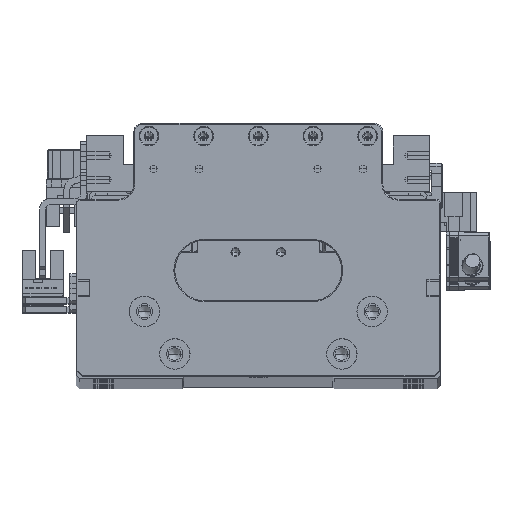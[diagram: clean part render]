
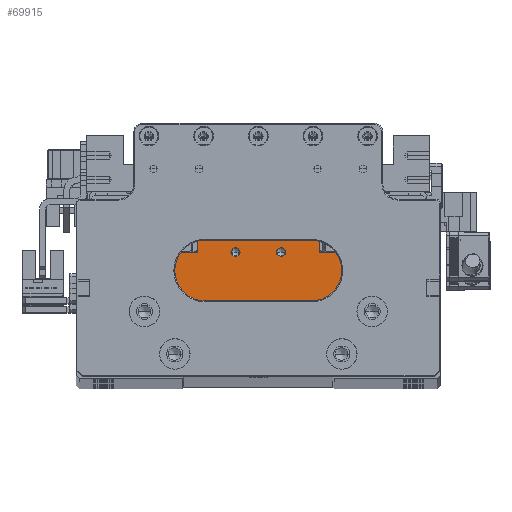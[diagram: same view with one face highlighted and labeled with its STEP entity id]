
A CAD part, top view. The second image highlights one B-rep face of the part: STEP entity #69915.
In plain terms, the highlighted planar face has unit normal (0, 0, 1).
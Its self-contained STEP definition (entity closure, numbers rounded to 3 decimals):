
#702 = CARTESIAN_POINT ( 'NONE',  ( -90.125, 79.08, 462.722 ) ) ;
#2528 = LINE ( 'NONE', #114167, #82117 ) ;
#2629 = EDGE_CURVE ( 'NONE', #89638, #82206, #87624, .T. ) ;
#3919 = ORIENTED_EDGE ( 'NONE', *, *, #103063, .T. ) ;
#5893 = EDGE_CURVE ( 'NONE', #25968, #48099, #117384, .T. ) ;
#6108 = VERTEX_POINT ( 'NONE', #47913 ) ;
#7259 = DIRECTION ( 'NONE',  ( 0., 0., 1. ) ) ;
#11536 = DIRECTION ( 'NONE',  ( 1., 0., 0. ) ) ;
#11896 = CARTESIAN_POINT ( 'NONE',  ( -90.125, 59.78, 462.722 ) ) ;
#11943 = DIRECTION ( 'NONE',  ( 0., 0., 1. ) ) ;
#16099 = ORIENTED_EDGE ( 'NONE', *, *, #67225, .F. ) ;
#17135 = VERTEX_POINT ( 'NONE', #18384 ) ;
#17901 = CARTESIAN_POINT ( 'NONE',  ( -112.525, 71.48, 462.722 ) ) ;
#18384 = CARTESIAN_POINT ( 'NONE',  ( -102.625, 82.98, 462.722 ) ) ;
#22788 = DIRECTION ( 'NONE',  ( 1., 0., 0. ) ) ;
#24142 = AXIS2_PLACEMENT_3D ( 'NONE', #702, #76399, #11536 ) ;
#24941 = LINE ( 'NONE', #25284, #50350 ) ;
#25284 = CARTESIAN_POINT ( 'NONE',  ( -90.125, 78.98, 462.722 ) ) ;
#25968 = VERTEX_POINT ( 'NONE', #132544 ) ;
#27714 = FACE_OUTER_BOUND ( 'NONE', #120746, .T. ) ;
#27730 = ORIENTED_EDGE ( 'NONE', *, *, #139085, .F. ) ;
#30384 = EDGE_CURVE ( 'NONE', #6108, #17135, #2528, .T. ) ;
#30758 = CARTESIAN_POINT ( 'NONE',  ( -90.125, 71.48, 462.722 ) ) ;
#31223 = DIRECTION ( 'NONE',  ( -1., 0., 0. ) ) ;
#31745 = DIRECTION ( 'NONE',  ( 0., 0., 1. ) ) ;
#33281 = ORIENTED_EDGE ( 'NONE', *, *, #125050, .F. ) ;
#37457 = VECTOR ( 'NONE', #51683, 1000. ) ;
#37998 = CIRCLE ( 'NONE', #44024, 1.525 ) ;
#38043 = CARTESIAN_POINT ( 'NONE',  ( -52.725, 78.98, 462.722 ) ) ;
#39879 = VECTOR ( 'NONE', #22788, 1000. ) ;
#40796 = CARTESIAN_POINT ( 'NONE',  ( -90.125, 78.98, 462.722 ) ) ;
#41912 = CARTESIAN_POINT ( 'NONE',  ( -112.525, 78.98, 462.722 ) ) ;
#43304 = EDGE_CURVE ( 'NONE', #80984, #67128, #115553, .T. ) ;
#44024 = AXIS2_PLACEMENT_3D ( 'NONE', #72145, #7259, #83043 ) ;
#44189 = ORIENTED_EDGE ( 'NONE', *, *, #30384, .F. ) ;
#44326 = CARTESIAN_POINT ( 'NONE',  ( -62.625, 82.98, 462.722 ) ) ;
#47529 = CIRCLE ( 'NONE', #101672, 1.525 ) ;
#47612 = CARTESIAN_POINT ( 'NONE',  ( -62.625, 78.98, 462.722 ) ) ;
#47860 = EDGE_LOOP ( 'NONE', ( #27730, #112335 ) ) ;
#47913 = CARTESIAN_POINT ( 'NONE',  ( -102.625, 78.98, 462.722 ) ) ;
#47971 = VERTEX_POINT ( 'NONE', #44326 ) ;
#48099 = VERTEX_POINT ( 'NONE', #68004 ) ;
#49664 = VECTOR ( 'NONE', #85222, 1000. ) ;
#50081 = VERTEX_POINT ( 'NONE', #47612 ) ;
#50350 = VECTOR ( 'NONE', #133716, 1000. ) ;
#51683 = DIRECTION ( 'NONE',  ( 1., 0., 0. ) ) ;
#53304 = CARTESIAN_POINT ( 'NONE',  ( -76.65, 79.08, 462.722 ) ) ;
#56305 = ORIENTED_EDGE ( 'NONE', *, *, #2629, .F. ) ;
#56625 = CARTESIAN_POINT ( 'NONE',  ( -73.6, 79.08, 462.722 ) ) ;
#56831 = DIRECTION ( 'NONE',  ( 0., -1., 0. ) ) ;
#59031 = EDGE_CURVE ( 'NONE', #117783, #131810, #70337, .T. ) ;
#60956 = LINE ( 'NONE', #121656, #115122 ) ;
#61162 = DIRECTION ( 'NONE',  ( 0., 1., 0. ) ) ;
#63220 = EDGE_CURVE ( 'NONE', #82206, #6108, #69702, .T. ) ;
#67128 = VERTEX_POINT ( 'NONE', #56625 ) ;
#67225 = EDGE_CURVE ( 'NONE', #50081, #117783, #24941, .T. ) ;
#68004 = CARTESIAN_POINT ( 'NONE',  ( -91.65, 79.08, 462.722 ) ) ;
#69282 = ORIENTED_EDGE ( 'NONE', *, *, #81421, .F. ) ;
#69702 = LINE ( 'NONE', #40796, #37457 ) ;
#69915 = ADVANCED_FACE ( 'NONE', ( #27714, #81937, #139431 ), #85221, .F. ) ;
#70337 = LINE ( 'NONE', #138738, #124468 ) ;
#71724 = AXIS2_PLACEMENT_3D ( 'NONE', #96636, #31745, #107482 ) ;
#72145 = CARTESIAN_POINT ( 'NONE',  ( -90.125, 79.08, 462.722 ) ) ;
#73642 = ORIENTED_EDGE ( 'NONE', *, *, #59031, .F. ) ;
#76399 = DIRECTION ( 'NONE',  ( 0., 0., 1. ) ) ;
#76840 = CARTESIAN_POINT ( 'NONE',  ( -75.125, 79.08, 462.722 ) ) ;
#77442 = CARTESIAN_POINT ( 'NONE',  ( -52.725, 59.78, 462.722 ) ) ;
#78499 = LINE ( 'NONE', #139062, #49664 ) ;
#80984 = VERTEX_POINT ( 'NONE', #53304 ) ;
#81421 = EDGE_CURVE ( 'NONE', #48099, #25968, #37998, .T. ) ;
#81937 = FACE_BOUND ( 'NONE', #47860, .T. ) ;
#82117 = VECTOR ( 'NONE', #61162, 1000. ) ;
#82206 = VERTEX_POINT ( 'NONE', #41912 ) ;
#82820 = DIRECTION ( 'NONE',  ( 0., 1., 0. ) ) ;
#83043 = DIRECTION ( 'NONE',  ( 1., 0., 0. ) ) ;
#84246 = VECTOR ( 'NONE', #82820, 1000. ) ;
#84847 = EDGE_CURVE ( 'NONE', #17135, #47971, #78499, .T. ) ;
#85221 = PLANE ( 'NONE',  #93024 ) ;
#85222 = DIRECTION ( 'NONE',  ( 1., 0., 0. ) ) ;
#87624 = LINE ( 'NONE', #17901, #84246 ) ;
#87706 = DIRECTION ( 'NONE',  ( 1., 0., 0. ) ) ;
#89638 = VERTEX_POINT ( 'NONE', #108381 ) ;
#93024 = AXIS2_PLACEMENT_3D ( 'NONE', #30758, #96106, #31223 ) ;
#95305 = DIRECTION ( 'NONE',  ( 0., -1., 0. ) ) ;
#96106 = DIRECTION ( 'NONE',  ( 0., 0., -1. ) ) ;
#96636 = CARTESIAN_POINT ( 'NONE',  ( -75.125, 79.08, 462.722 ) ) ;
#97694 = ORIENTED_EDGE ( 'NONE', *, *, #5893, .F. ) ;
#97877 = ORIENTED_EDGE ( 'NONE', *, *, #63220, .F. ) ;
#101562 = EDGE_LOOP ( 'NONE', ( #97694, #69282 ) ) ;
#101672 = AXIS2_PLACEMENT_3D ( 'NONE', #76840, #11943, #87706 ) ;
#103063 = EDGE_CURVE ( 'NONE', #89638, #131810, #119510, .T. ) ;
#107482 = DIRECTION ( 'NONE',  ( 1., 0., 0. ) ) ;
#108381 = CARTESIAN_POINT ( 'NONE',  ( -112.525, 59.78, 462.722 ) ) ;
#111280 = ORIENTED_EDGE ( 'NONE', *, *, #84847, .F. ) ;
#112335 = ORIENTED_EDGE ( 'NONE', *, *, #43304, .F. ) ;
#114167 = CARTESIAN_POINT ( 'NONE',  ( -102.625, 71.48, 462.722 ) ) ;
#115122 = VECTOR ( 'NONE', #56831, 1000. ) ;
#115553 = CIRCLE ( 'NONE', #71724, 1.525 ) ;
#117384 = CIRCLE ( 'NONE', #24142, 1.525 ) ;
#117783 = VERTEX_POINT ( 'NONE', #38043 ) ;
#119510 = LINE ( 'NONE', #11896, #39879 ) ;
#120746 = EDGE_LOOP ( 'NONE', ( #97877, #56305, #3919, #73642, #16099, #33281, #111280, #44189 ) ) ;
#121656 = CARTESIAN_POINT ( 'NONE',  ( -62.625, 71.48, 462.722 ) ) ;
#124468 = VECTOR ( 'NONE', #95305, 1000. ) ;
#125050 = EDGE_CURVE ( 'NONE', #47971, #50081, #60956, .T. ) ;
#131810 = VERTEX_POINT ( 'NONE', #77442 ) ;
#132544 = CARTESIAN_POINT ( 'NONE',  ( -88.6, 79.08, 462.722 ) ) ;
#133716 = DIRECTION ( 'NONE',  ( 1., 0., 0. ) ) ;
#138738 = CARTESIAN_POINT ( 'NONE',  ( -52.725, 71.48, 462.722 ) ) ;
#139062 = CARTESIAN_POINT ( 'NONE',  ( -90.125, 82.98, 462.722 ) ) ;
#139085 = EDGE_CURVE ( 'NONE', #67128, #80984, #47529, .T. ) ;
#139431 = FACE_BOUND ( 'NONE', #101562, .T. ) ;
